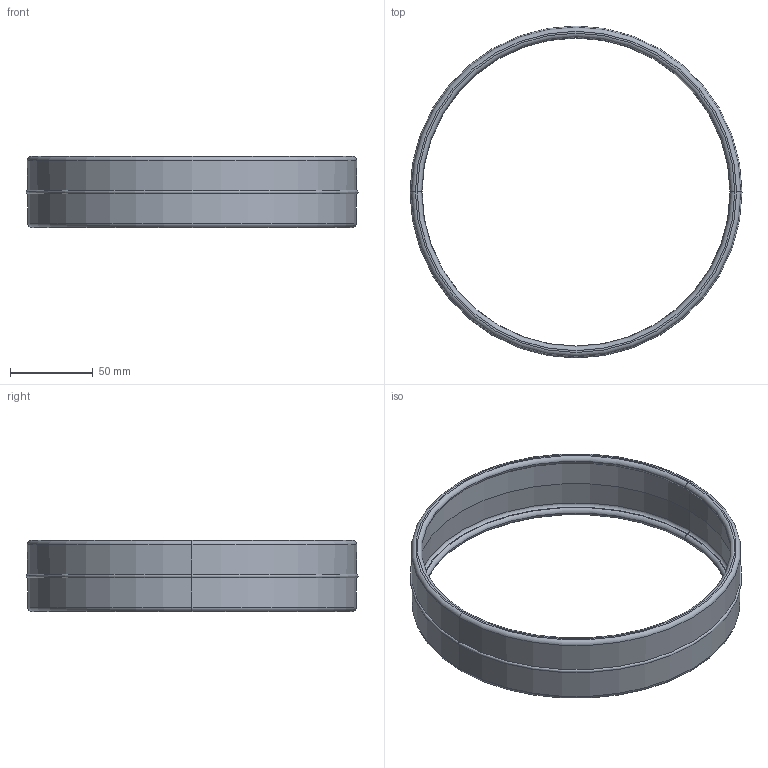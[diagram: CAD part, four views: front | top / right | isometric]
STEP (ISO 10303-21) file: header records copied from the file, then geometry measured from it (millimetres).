
FILE_DESCRIPTION (( 'STEP AP214' ), '1' );
FILE_NAME ('0738 Schutzring.STEP', '2025-03-26T12:43:43', ( '' ), ( '' ), 'SwSTEP 2.0', 'SolidWorks 2022', '' );
FILE_SCHEMA (( 'AUTOMOTIVE_DESIGN' ));
Length unit declared in the file: millimetre
Products named in the file (2): 10068454_000_Einbauzustand  Ø187,2 - Ø186,5 - B=43; 0738 Schutzring
Assembly tree (1 placements, depth 2):
  0738 Schutzring
    10068454_000_Einbauzustand  Ø187,2 - Ø186,5 - B=43
Bounding box: 201 x 201 x 43 mm (x, y, z)
Volume: 78308.6 mm3; surface area: 61885.5 mm2
Topology: 1 solids, 1 shells, 30 faces, 60 edges, 34 vertices
Faces by surface type: torus 18, cone 8, plane 4
Entity records: 862 total; most frequent: DIRECTION 180, CARTESIAN_POINT 128, ORIENTED_EDGE 120, AXIS2_PLACEMENT_3D 86, EDGE_CURVE 60, CIRCLE 52, VERTEX_POINT 34, EDGE_LOOP 34
